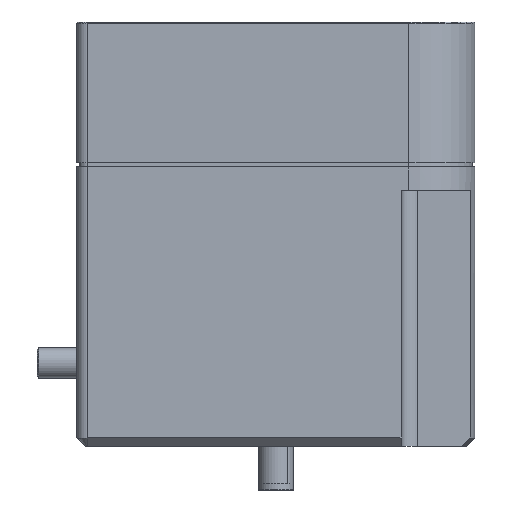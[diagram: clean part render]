
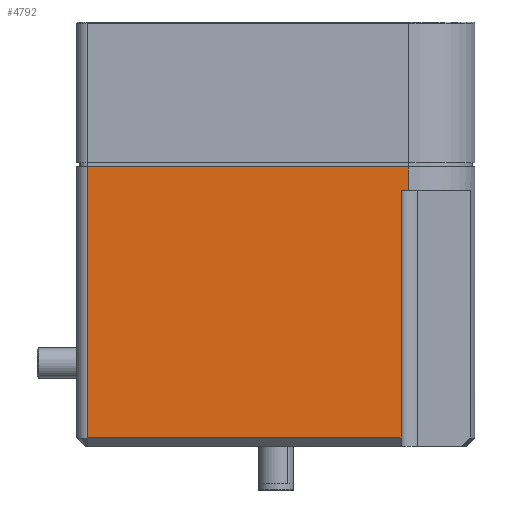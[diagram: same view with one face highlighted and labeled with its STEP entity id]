
A CAD part, left-side view. The second image highlights one B-rep face of the part: STEP entity #4792.
In plain terms, the highlighted planar face has unit normal (-1, 0, 0).
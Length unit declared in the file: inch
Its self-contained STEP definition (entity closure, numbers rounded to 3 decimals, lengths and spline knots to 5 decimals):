
#72 = VECTOR ( 'NONE', #9979, 39.37008 ) ;
#198 = VERTEX_POINT ( 'NONE', #1880 ) ;
#429 = DIRECTION ( 'NONE',  ( 0., 0., -1. ) ) ;
#481 = LINE ( 'NONE', #5218, #3406 ) ;
#789 = EDGE_CURVE ( 'NONE', #198, #10030, #3144, .T. ) ;
#1038 = CARTESIAN_POINT ( 'NONE',  ( -0.75, -1.563, -0.68307 ) ) ;
#1046 = CARTESIAN_POINT ( 'NONE',  ( -0.75, -0.05, -2. ) ) ;
#1155 = VERTEX_POINT ( 'NONE', #8049 ) ;
#1193 = EDGE_CURVE ( 'NONE', #3720, #198, #481, .T. ) ;
#1520 = ORIENTED_EDGE ( 'NONE', *, *, #11028, .T. ) ;
#1560 = DIRECTION ( 'NONE',  ( 0., 0., 1. ) ) ;
#1741 = DIRECTION ( 'NONE',  ( -1., 0., 0. ) ) ;
#1785 = EDGE_CURVE ( 'NONE', #6972, #10575, #10640, .T. ) ;
#1880 = CARTESIAN_POINT ( 'NONE',  ( -0.75, -0.05, -0.68307 ) ) ;
#2048 = DIRECTION ( 'NONE',  ( 0., -1., 0. ) ) ;
#2115 = CARTESIAN_POINT ( 'NONE',  ( -0.75, -1.563, -0.79252 ) ) ;
#2160 = CARTESIAN_POINT ( 'NONE',  ( -0.75, -1.53031, -0.79252 ) ) ;
#2646 = VECTOR ( 'NONE', #4755, 39.37008 ) ;
#3144 = LINE ( 'NONE', #1046, #6851 ) ;
#3247 = ORIENTED_EDGE ( 'NONE', *, *, #1785, .T. ) ;
#3255 = DIRECTION ( 'NONE',  ( 0., 1., 0. ) ) ;
#3406 = VECTOR ( 'NONE', #3255, 39.37008 ) ;
#3720 = VERTEX_POINT ( 'NONE', #1038 ) ;
#4026 = LINE ( 'NONE', #6709, #2646 ) ;
#4755 = DIRECTION ( 'NONE',  ( 0., 0., 1. ) ) ;
#4792 = ADVANCED_FACE ( 'NONE', ( #7320 ), #6279, .T. ) ;
#5034 = CARTESIAN_POINT ( 'NONE',  ( -0.75, -0.05, -1.96 ) ) ;
#5218 = CARTESIAN_POINT ( 'NONE',  ( -0.75, -1.563, -0.68307 ) ) ;
#5538 = CARTESIAN_POINT ( 'NONE',  ( -0.75, -1.563, -2. ) ) ;
#5811 = VECTOR ( 'NONE', #6947, 39.37008 ) ;
#6279 = PLANE ( 'NONE',  #11702 ) ;
#6709 = CARTESIAN_POINT ( 'NONE',  ( -0.75, -1.563, -2. ) ) ;
#6851 = VECTOR ( 'NONE', #429, 39.37008 ) ;
#6947 = DIRECTION ( 'NONE',  ( 0., 0., 1. ) ) ;
#6972 = VERTEX_POINT ( 'NONE', #7834 ) ;
#7143 = LINE ( 'NONE', #10906, #72 ) ;
#7320 = FACE_OUTER_BOUND ( 'NONE', #10966, .T. ) ;
#7330 = ORIENTED_EDGE ( 'NONE', *, *, #789, .T. ) ;
#7409 = EDGE_CURVE ( 'NONE', #10575, #1155, #9734, .T. ) ;
#7583 = CARTESIAN_POINT ( 'NONE',  ( -0.75, -1.53031, -0.79252 ) ) ;
#7834 = CARTESIAN_POINT ( 'NONE',  ( -0.75, -1.53031, -1.96 ) ) ;
#8049 = CARTESIAN_POINT ( 'NONE',  ( -0.75, -1.563, -0.79252 ) ) ;
#9112 = ORIENTED_EDGE ( 'NONE', *, *, #9653, .T. ) ;
#9653 = EDGE_CURVE ( 'NONE', #1155, #3720, #4026, .T. ) ;
#9734 = LINE ( 'NONE', #2115, #11943 ) ;
#9979 = DIRECTION ( 'NONE',  ( 0., -1., 0. ) ) ;
#10030 = VERTEX_POINT ( 'NONE', #5034 ) ;
#10575 = VERTEX_POINT ( 'NONE', #7583 ) ;
#10640 = LINE ( 'NONE', #2160, #5811 ) ;
#10906 = CARTESIAN_POINT ( 'NONE',  ( -0.75, -1.563, -1.96 ) ) ;
#10966 = EDGE_LOOP ( 'NONE', ( #7330, #1520, #3247, #11047, #9112, #11739 ) ) ;
#11028 = EDGE_CURVE ( 'NONE', #10030, #6972, #7143, .T. ) ;
#11047 = ORIENTED_EDGE ( 'NONE', *, *, #7409, .T. ) ;
#11702 = AXIS2_PLACEMENT_3D ( 'NONE', #5538, #1741, #1560 ) ;
#11739 = ORIENTED_EDGE ( 'NONE', *, *, #1193, .T. ) ;
#11943 = VECTOR ( 'NONE', #2048, 39.37008 ) ;
